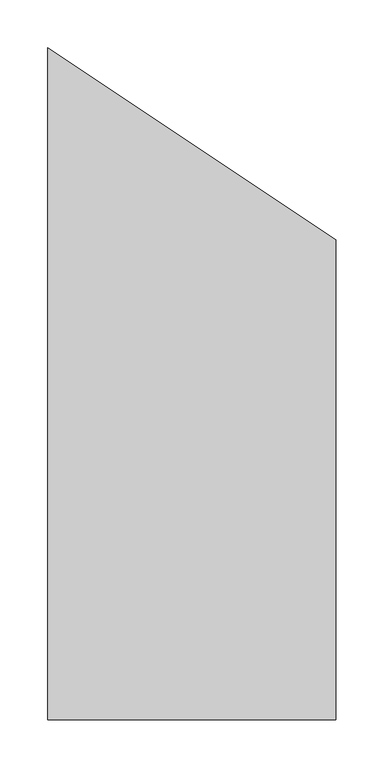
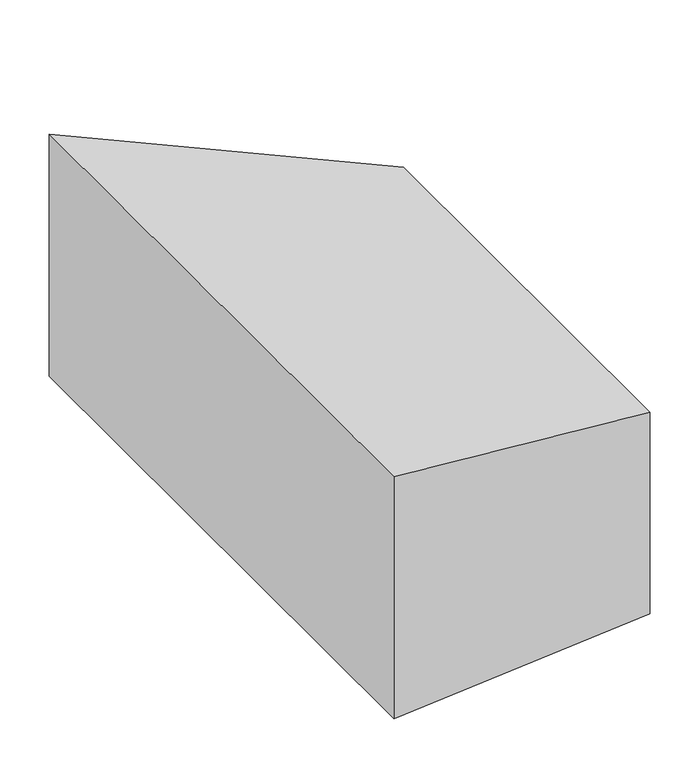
"""IFC4 building model written with IfcOpenShell, lengths in millimetres: duct fitting geometry, ADSK_ПереходникВоздуховодов_Прямоугольный1 : Стандартное 2."""

from ifc_helpers import new_model, si_unit, origin, place, context, project, spatial, faceted_brep, source, transform, mapped, element, save


def duct_fitting_8a6e6fd0(model_context):
    return source(origin(), model_context, "Body", "Brep", [
        faceted_brep([(300.0, -350.0, 125.0), (300.0, -350.0, -125.0), (300.0, 150.0, -125.0), (300.0, 150.0, 125.0), (0.0, -350.0, 150.0), (0.0, 350.0, 150.0), (0.0, 350.0, -150.0), (0.0, -350.0, -150.0)], [[[0, 1, 2, 3]], [[4, 5, 6, 7]], [[4, 7, 1, 0]], [[7, 6, 2, 1]], [[6, 5, 3, 2]], [[5, 4, 0, 3]]]),
    ])


if __name__ == "__main__":
    model = new_model("IFC4")
    model_context = context("Model", 3, world=origin())
    ifc_project = project(units=[si_unit("LENGTHUNIT", "METRE", prefix="MILLI")], contexts=[model_context])
    site = spatial("IfcSite", under=ifc_project)
    building = spatial("IfcBuilding", under=site)
    placement = place(None, origin())
    duct_fitting_shape = duct_fitting_8a6e6fd0(model_context)
    element("IfcDuctFitting", 1, ObjectType="ADSK_ПереходникВоздуховодов_Прямоугольный1 : Стандартное 2", at=placement, inside=building, context=model_context, shape_type="MappedRepresentation", body=[
        mapped(duct_fitting_shape, transform((0.0, 0.0, 0.0), x_axis=(1.0, 0.0, 0.0), y_axis=(0.0, 1.0, 0.0), z_axis=(0.0, 0.0, 1.0))),
    ])
    save(model, "model.ifc")
